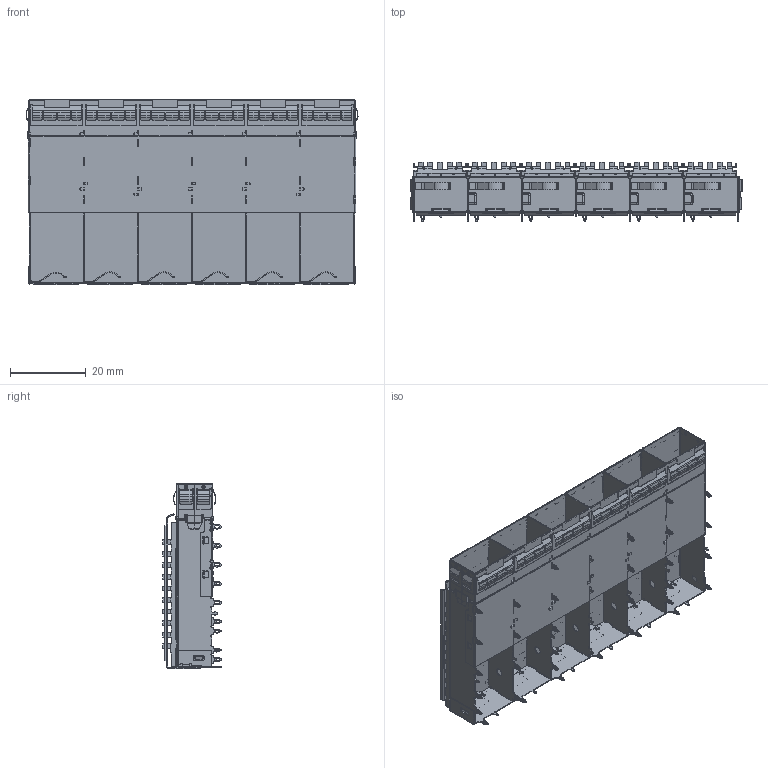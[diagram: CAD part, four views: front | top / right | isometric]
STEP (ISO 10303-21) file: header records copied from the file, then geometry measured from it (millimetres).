
FILE_DESCRIPTION (( 'STEP AP214' ), '1' );
FILE_NAME ('3.STEP', '2025-06-04T03:40:19', ( '桑三博客' ), ( 'Www.SangSan.Cn' ), 'SwSTEP 2.0', 'SolidWorks 2018', '' );
FILE_SCHEMA (( 'AUTOMOTIVE_DESIGN' ));
Length unit declared in the file: millimetre
Products named in the file (8): 2.sldasm-Part-7; 2.sldasm-Part-6; 2.sldasm-Part-5; 2.sldasm-Part-4; 2.sldasm-Part-3; 2.sldasm-Part-2; 2.sldasm-Part-1; 3
Assembly tree (7 placements, depth 2):
  3
    2.sldasm-Part-1
    2.sldasm-Part-2
    2.sldasm-Part-3
    2.sldasm-Part-4
    2.sldasm-Part-5
    2.sldasm-Part-6
    2.sldasm-Part-7
Bounding box: 87.56 x 15.55 x 48.95 mm (x, y, z)
Volume: 8825.2 mm3; surface area: 33912.6 mm2
Topology: 7 solids, 7 shells, 6888 faces, 20762 edges, 13702 vertices
Faces by surface type: plane 4113, cylinder 2582, bspline 161, torus 30, cone 2
Entity records: 241362 total; most frequent: CARTESIAN_POINT 49896, ORIENTED_EDGE 41524, DIRECTION 39005, EDGE_CURVE 20762, VECTOR 15059, LINE 15059, VERTEX_POINT 13702, AXIS2_PLACEMENT_3D 11973
